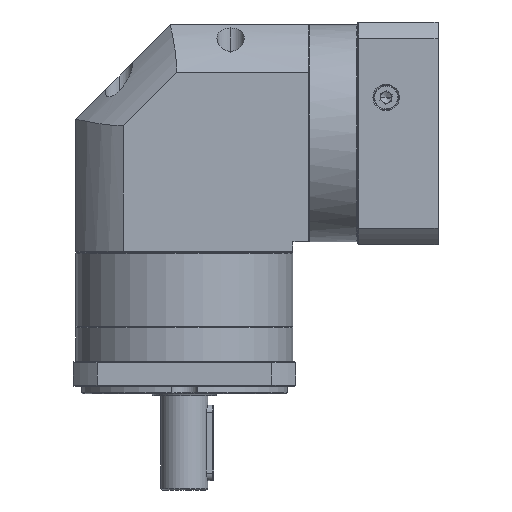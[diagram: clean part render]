
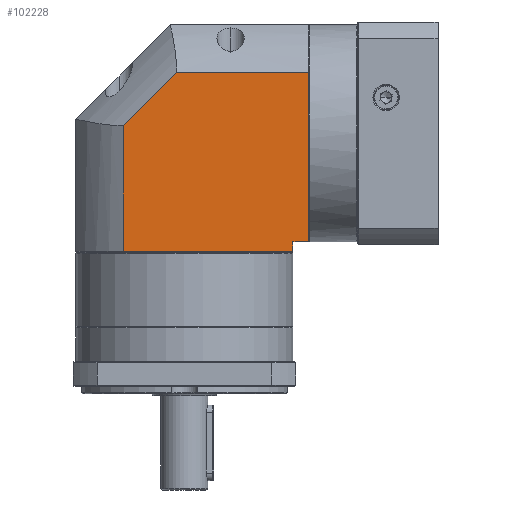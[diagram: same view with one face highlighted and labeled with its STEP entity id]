
A CAD part, front view. The second image highlights one B-rep face of the part: STEP entity #102228.
In plain terms, the highlighted planar face has unit normal (0, -1, 0).
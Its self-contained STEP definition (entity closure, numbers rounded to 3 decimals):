
#2003 = VECTOR ( 'NONE', #2090, 1000. ) ;
#2090 = DIRECTION ( 'NONE',  ( 0., 0., 1. ) ) ;
#6331 = LINE ( 'NONE', #21501, #20844 ) ;
#6487 = LINE ( 'NONE', #12352, #66354 ) ;
#8808 = EDGE_LOOP ( 'NONE', ( #33641, #46169, #9576, #133413, #54645, #99229, #103808 ) ) ;
#9576 = ORIENTED_EDGE ( 'NONE', *, *, #128917, .F. ) ;
#10269 = CARTESIAN_POINT ( 'NONE',  ( 14.809, -5.231, -61.854 ) ) ;
#12352 = CARTESIAN_POINT ( 'NONE',  ( -10.291, -5.231, 39.546 ) ) ;
#13958 = CARTESIAN_POINT ( 'NONE',  ( -10.291, -5.231, -61.854 ) ) ;
#15213 = VECTOR ( 'NONE', #125157, 1000. ) ;
#18130 = VERTEX_POINT ( 'NONE', #49644 ) ;
#20369 = AXIS2_PLACEMENT_3D ( 'NONE', #13958, #107456, #118823 ) ;
#20844 = VECTOR ( 'NONE', #103271, 1000. ) ;
#21501 = CARTESIAN_POINT ( 'NONE',  ( 14.809, -5.231, 11.208 ) ) ;
#21527 = CARTESIAN_POINT ( 'NONE',  ( 104.709, -5.231, -61.854 ) ) ;
#22596 = PLANE ( 'NONE',  #20369 ) ;
#33641 = ORIENTED_EDGE ( 'NONE', *, *, #60884, .F. ) ;
#36622 = DIRECTION ( 'NONE',  ( -1., 0., 0. ) ) ;
#39702 = EDGE_CURVE ( 'NONE', #66088, #55381, #53267, .T. ) ;
#41245 = VECTOR ( 'NONE', #64077, 1000. ) ;
#46169 = ORIENTED_EDGE ( 'NONE', *, *, #122987, .F. ) ;
#49644 = CARTESIAN_POINT ( 'NONE',  ( 113.109, -5.231, -50.354 ) ) ;
#53267 = LINE ( 'NONE', #88072, #90433 ) ;
#54645 = ORIENTED_EDGE ( 'NONE', *, *, #131055, .F. ) ;
#55381 = VERTEX_POINT ( 'NONE', #113194 ) ;
#60884 = EDGE_CURVE ( 'NONE', #68199, #66088, #70403, .T. ) ;
#64077 = DIRECTION ( 'NONE',  ( 0., 0., -1. ) ) ;
#66088 = VERTEX_POINT ( 'NONE', #82622 ) ;
#66354 = VECTOR ( 'NONE', #75654, 1000. ) ;
#68199 = VERTEX_POINT ( 'NONE', #118742 ) ;
#68750 = CARTESIAN_POINT ( 'NONE',  ( 14.809, -5.231, 11.208 ) ) ;
#70403 = LINE ( 'NONE', #21527, #41245 ) ;
#73602 = EDGE_CURVE ( 'NONE', #55381, #123944, #84513, .T. ) ;
#75654 = DIRECTION ( 'NONE',  ( 1., 0., 0. ) ) ;
#82622 = CARTESIAN_POINT ( 'NONE',  ( 104.709, -5.231, -55.354 ) ) ;
#84513 = LINE ( 'NONE', #10269, #2003 ) ;
#88072 = CARTESIAN_POINT ( 'NONE',  ( -10.291, -5.231, -55.354 ) ) ;
#90433 = VECTOR ( 'NONE', #36622, 1000. ) ;
#90696 = DIRECTION ( 'NONE',  ( -1., 0., 0. ) ) ;
#92674 = FACE_OUTER_BOUND ( 'NONE', #8808, .T. ) ;
#94422 = LINE ( 'NONE', #104330, #15213 ) ;
#99229 = ORIENTED_EDGE ( 'NONE', *, *, #73602, .F. ) ;
#102228 = ADVANCED_FACE ( 'NONE', ( #92674 ), #22596, .F. ) ;
#103271 = DIRECTION ( 'NONE',  ( 0.707, 0., 0.707 ) ) ;
#103808 = ORIENTED_EDGE ( 'NONE', *, *, #39702, .F. ) ;
#104330 = CARTESIAN_POINT ( 'NONE',  ( 113.109, -5.231, -61.854 ) ) ;
#105374 = CARTESIAN_POINT ( 'NONE',  ( 113.109, -5.231, 39.546 ) ) ;
#107456 = DIRECTION ( 'NONE',  ( 0., 1., 0. ) ) ;
#107613 = LINE ( 'NONE', #121444, #113982 ) ;
#108898 = VERTEX_POINT ( 'NONE', #105374 ) ;
#113194 = CARTESIAN_POINT ( 'NONE',  ( 14.809, -5.231, -55.354 ) ) ;
#113982 = VECTOR ( 'NONE', #90696, 1000. ) ;
#118742 = CARTESIAN_POINT ( 'NONE',  ( 104.709, -5.231, -50.354 ) ) ;
#118823 = DIRECTION ( 'NONE',  ( 1., 0., 0. ) ) ;
#119517 = CARTESIAN_POINT ( 'NONE',  ( 43.147, -5.231, 39.546 ) ) ;
#121151 = VERTEX_POINT ( 'NONE', #119517 ) ;
#121444 = CARTESIAN_POINT ( 'NONE',  ( -10.291, -5.231, -50.354 ) ) ;
#122987 = EDGE_CURVE ( 'NONE', #18130, #68199, #107613, .T. ) ;
#123944 = VERTEX_POINT ( 'NONE', #68750 ) ;
#125157 = DIRECTION ( 'NONE',  ( 0., 0., -1. ) ) ;
#126554 = EDGE_CURVE ( 'NONE', #121151, #108898, #6487, .T. ) ;
#128917 = EDGE_CURVE ( 'NONE', #108898, #18130, #94422, .T. ) ;
#131055 = EDGE_CURVE ( 'NONE', #123944, #121151, #6331, .T. ) ;
#133413 = ORIENTED_EDGE ( 'NONE', *, *, #126554, .F. ) ;
